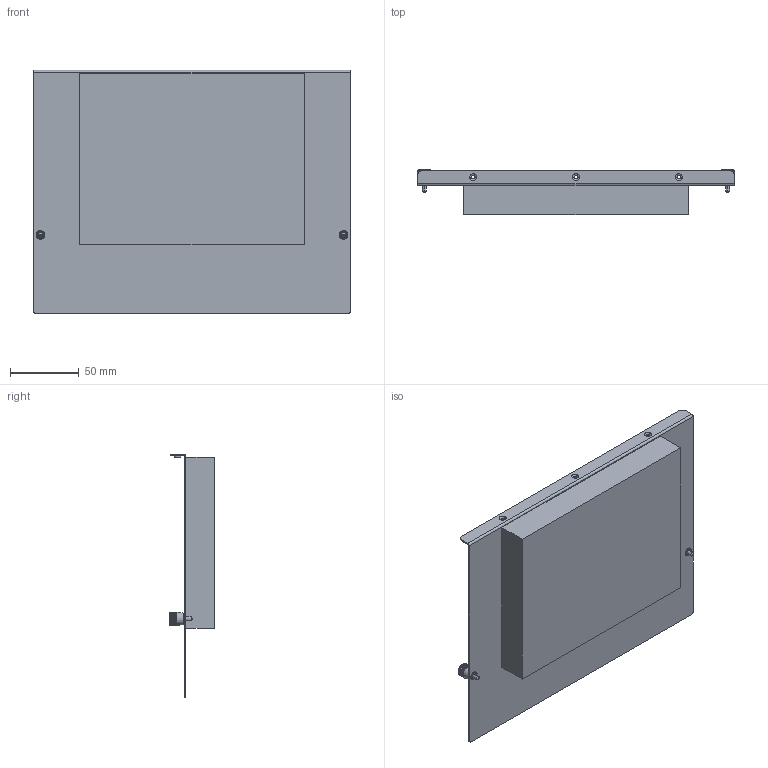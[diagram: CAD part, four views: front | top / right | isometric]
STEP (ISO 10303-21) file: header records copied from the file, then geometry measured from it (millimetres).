
FILE_DESCRIPTION((''),'2;1');
FILE_NAME('OCP3-FIX-CVR-FRNT-ASSY-DSFF_ASM','2025-03-17T16:01:43',('Jon_Lewis'),('Dell Technologies'),'CREO PARAMETRIC BY PTC INC, 2023294','CREO PARAMETRIC BY PTC INC, 2023294','');
FILE_SCHEMA(('AUTOMOTIVE_DESIGN { 1 0 10303 214 1 1 1 1 }'));
Length unit declared in the file: millimetre
Products named in the file (4): OCP3-FIX-CVR-FRONT-DSFF; OCP-NIC-SFF-THUMB-SCR-15G1; OCP-DSFF-AIR-BLOCK; OCP3-FIX-CVR-FRNT-ASSY-DSFF_ASM
Assembly tree (4 placements, depth 2):
  OCP3-FIX-CVR-FRNT-ASSY-DSFF_ASM
    OCP3-FIX-CVR-FRONT-DSFF
    OCP-NIC-SFF-THUMB-SCR-15G1  x2
    OCP-DSFF-AIR-BLOCK
Bounding box: 231.2 x 32.83 x 177.5 mm (x, y, z)
Volume: 472412.9 mm3; surface area: 142617.9 mm2
Topology: 2 solids, 6 shells, 1174 faces, 2979 edges, 1847 vertices
Faces by surface type: plane 524, torus 246, cone 222, cylinder 122, bspline 60
Entity records: 26309 total; most frequent: CARTESIAN_POINT 9132, DIRECTION 3473, ORIENTED_EDGE 3094, EDGE_CURVE 1550, AXIS2_PLACEMENT_3D 1391, VERTEX_POINT 953, CIRCLE 653, EDGE_LOOP 645
